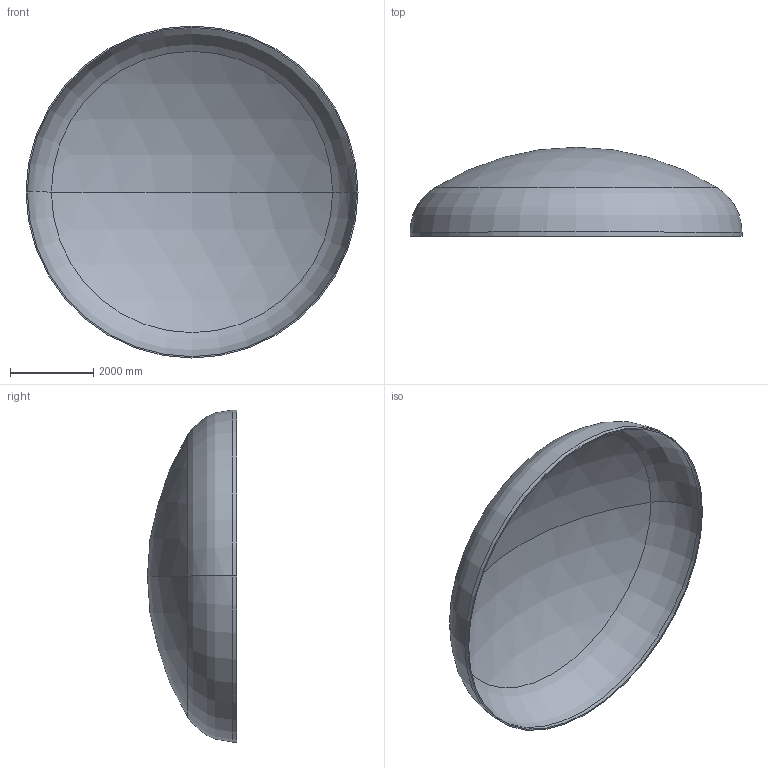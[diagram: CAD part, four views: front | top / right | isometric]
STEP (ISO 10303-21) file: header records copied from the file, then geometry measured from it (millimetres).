
FILE_DESCRIPTION (( 'STEP AP203' ), '1' );
FILE_NAME ('DIN 28013 Korbbogenform_-_Boden DIN 28013 - 8000 x 100 - I - s=32.step', '2016-07-04T11:00:28', ( '' ), ( '' ), 'SwSTEP 2.0', 'SolidWorks 2013', '' );
FILE_SCHEMA (( 'CONFIG_CONTROL_DESIGN' ));
Length unit declared in the file: millimetre
Products named in the file (1): DIN 28013 Korbbogenform_-_Boden DIN 28013 - 8000 x 100 - I - s=32
Bounding box: 8000 x 2146.54 x 8000 mm (x, y, z)
Volume: 2295510390.8 mm3; surface area: 144272517.1 mm2
Topology: 1 solids, 1 shells, 13 faces, 24 edges, 14 vertices
Faces by surface type: torus 4, cylinder 4, sphere 4, plane 1
Entity records: 407 total; most frequent: DIRECTION 72, CARTESIAN_POINT 52, ORIENTED_EDGE 48, AXIS2_PLACEMENT_3D 34, EDGE_CURVE 24, CIRCLE 20, EDGE_LOOP 14, VERTEX_POINT 14
